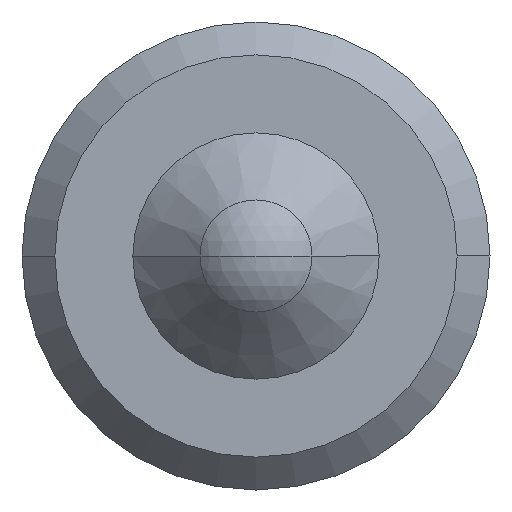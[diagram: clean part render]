
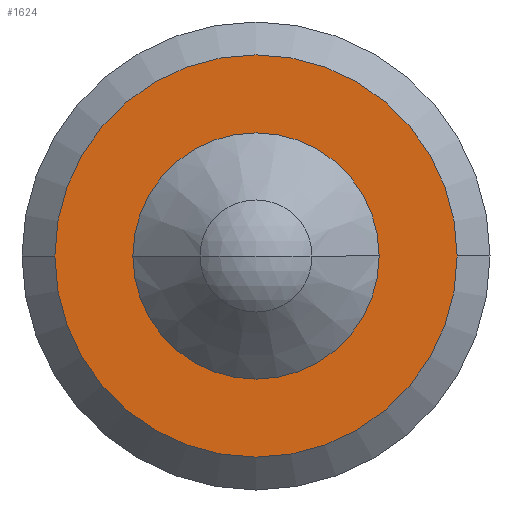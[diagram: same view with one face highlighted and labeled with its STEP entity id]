
A CAD part, front view. The second image highlights one B-rep face of the part: STEP entity #1624.
In plain terms, the highlighted planar face has unit normal (0, -1, 0).
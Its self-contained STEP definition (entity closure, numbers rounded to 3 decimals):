
#86 = VERTEX_POINT ( 'NONE', #188 ) ;
#100 = VERTEX_POINT ( 'NONE', #207 ) ;
#124 = VERTEX_POINT ( 'NONE', #205 ) ;
#162 = VERTEX_POINT ( 'NONE', #224 ) ;
#188 = CARTESIAN_POINT ( 'NONE',  ( 1.45, 4.075, 0. ) ) ;
#205 = CARTESIAN_POINT ( 'NONE',  ( 2.45, 4.075, 0. ) ) ;
#207 = CARTESIAN_POINT ( 'NONE',  ( -2.45, 4.075, 0. ) ) ;
#224 = CARTESIAN_POINT ( 'NONE',  ( -1.45, 4.075, 0. ) ) ;
#653 = DIRECTION ( 'NONE',  ( -1., 0., 0. ) ) ;
#677 = CARTESIAN_POINT ( 'NONE',  ( 0., 4.075, 0. ) ) ;
#685 = DIRECTION ( 'NONE',  ( 0., -1., 0. ) ) ;
#695 = CARTESIAN_POINT ( 'NONE',  ( 0., 4.075, 0. ) ) ;
#701 = EDGE_LOOP ( 'NONE', ( #830, #824 ) ) ;
#714 = EDGE_LOOP ( 'NONE', ( #815, #852 ) ) ;
#815 = ORIENTED_EDGE ( 'NONE', *, *, #1629, .T. ) ;
#824 = ORIENTED_EDGE ( 'NONE', *, *, #1620, .T. ) ;
#830 = ORIENTED_EDGE ( 'NONE', *, *, #1670, .T. ) ;
#852 = ORIENTED_EDGE ( 'NONE', *, *, #1254, .T. ) ;
#974 = CIRCLE ( 'NONE', #976, 1.45 ) ;
#976 = AXIS2_PLACEMENT_3D ( 'NONE', #1305, #1340, #1313 ) ;
#1254 = EDGE_CURVE ( 'NONE', #124, #100, #1568, .T. ) ;
#1305 = CARTESIAN_POINT ( 'NONE',  ( 0., 4.075, 0. ) ) ;
#1313 = DIRECTION ( 'NONE',  ( -1., 0., 0. ) ) ;
#1340 = DIRECTION ( 'NONE',  ( 0., 1., 0. ) ) ;
#1376 = DIRECTION ( 'NONE',  ( 0., 1., 0. ) ) ;
#1377 = CARTESIAN_POINT ( 'NONE',  ( 0., 4.075, 0. ) ) ;
#1389 = CARTESIAN_POINT ( 'NONE',  ( 2.85, 4.075, 0. ) ) ;
#1391 = FACE_OUTER_BOUND ( 'NONE', #714, .T. ) ;
#1393 = FACE_BOUND ( 'NONE', #701, .T. ) ;
#1396 = DIRECTION ( 'NONE',  ( -1., 0., 0. ) ) ;
#1406 = DIRECTION ( 'NONE',  ( -1., 0., 0. ) ) ;
#1409 = DIRECTION ( 'NONE',  ( 0., 1., 0. ) ) ;
#1411 = PLANE ( 'NONE',  #1552 ) ;
#1414 = DIRECTION ( 'NONE',  ( 0., -1., 0. ) ) ;
#1415 = DIRECTION ( 'NONE',  ( -1., 0., 0. ) ) ;
#1535 = CIRCLE ( 'NONE', #1537, 2.45 ) ;
#1537 = AXIS2_PLACEMENT_3D ( 'NONE', #1377, #1414, #1415 ) ;
#1552 = AXIS2_PLACEMENT_3D ( 'NONE', #1389, #1376, #1396 ) ;
#1554 = CIRCLE ( 'NONE', #1555, 1.45 ) ;
#1555 = AXIS2_PLACEMENT_3D ( 'NONE', #695, #1409, #1406 ) ;
#1568 = CIRCLE ( 'NONE', #1570, 2.45 ) ;
#1570 = AXIS2_PLACEMENT_3D ( 'NONE', #677, #685, #653 ) ;
#1620 = EDGE_CURVE ( 'NONE', #86, #162, #1554, .T. ) ;
#1624 = ADVANCED_FACE ( 'NONE', ( #1391, #1393 ), #1411, .F. ) ;
#1629 = EDGE_CURVE ( 'NONE', #100, #124, #1535, .T. ) ;
#1670 = EDGE_CURVE ( 'NONE', #162, #86, #974, .T. ) ;
